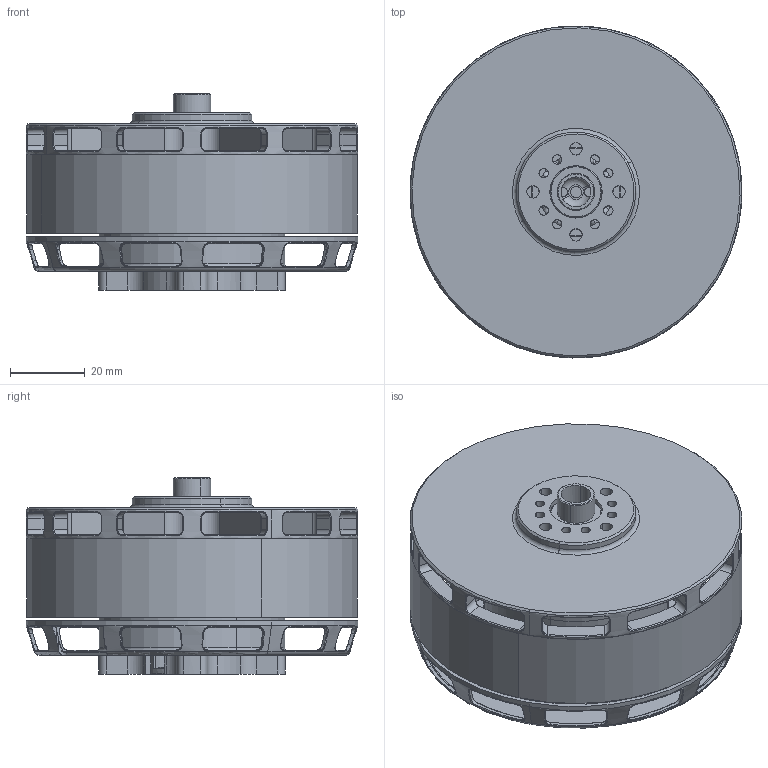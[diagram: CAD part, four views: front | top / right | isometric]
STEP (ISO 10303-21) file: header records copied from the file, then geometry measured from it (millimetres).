
FILE_DESCRIPTION (( 'STEP AP203' ), '1' );
FILE_NAME ('VL8022-勤俋.STEP', '2024-10-11T01:48:18', ( '1' ), ( '' ), 'SwSTEP 2.0', 'SolidWorks 2021', '' );
FILE_SCHEMA (( 'CONFIG_CONTROL_DESIGN' ));
Length unit declared in the file: millimetre
Products named in the file (14): VL8022-勤俋; VL-坶粣菜え; 覜茼棠沺; EZO 6901 ZZ; VL8017-gangquan; M12; qiangai; V炵蹈隅蔑晤鎢んV2.0; VL8017-hougai-郔笝唳; 粣12mm-huangtongdianpian; VL-棠晤釱; VL8017-gangzhou-2; VL100-晤鎢ん菁釱-A; VL8017-SANRENPIAN
Assembly tree (14 placements, depth 2):
  VL8022-勤俋
    qiangai
    VL100-晤鎢ん菁釱-A
    VL8017-SANRENPIAN
    VL8017-hougai-郔笝唳
    VL-棠晤釱
    VL-坶粣菜え
    V炵蹈隅蔑晤鎢んV2.0
    覜茼棠沺
    粣12mm-huangtongdianpian
    EZO 6901 ZZ  x2
    VL8017-gangquan
    VL8017-gangzhou-2
    M12
Bounding box: 88.78 x 88.78 x 52.5 mm (x, y, z)
Volume: 65354.8 mm3; surface area: 88506.2 mm2
Topology: 61 solids, 61 shells, 3060 faces, 8358 edges, 5086 vertices
Faces by surface type: plane 1039, cylinder 995, bspline 343, sphere 304, torus 286, cone 93
Entity records: 132254 total; most frequent: CARTESIAN_POINT 63499, ORIENTED_EDGE 14918, DIRECTION 12910, EDGE_CURVE 7459, AXIS2_PLACEMENT_3D 5000, VERTEX_POINT 4631, EDGE_LOOP 3070, FACE_OUTER_BOUND 2914
